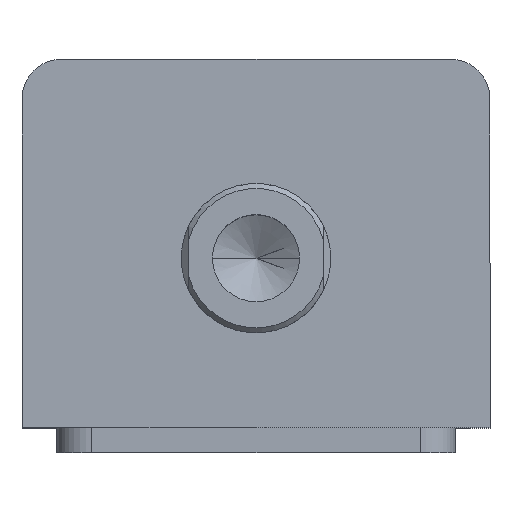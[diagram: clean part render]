
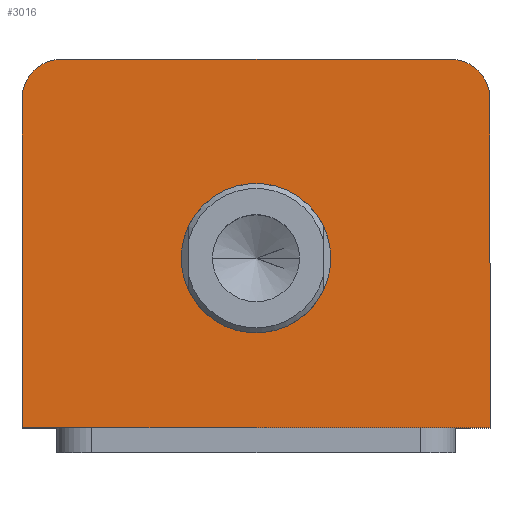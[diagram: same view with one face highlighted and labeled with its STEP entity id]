
A CAD part, top view. The second image highlights one B-rep face of the part: STEP entity #3016.
In plain terms, the highlighted planar face has unit normal (0, 0, 1).
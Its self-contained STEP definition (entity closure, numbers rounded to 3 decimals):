
#121 = CIRCLE ( 'NONE', #555, 15. ) ;
#129 = LINE ( 'NONE', #1031, #132 ) ;
#132 = VECTOR ( 'NONE', #1032, 1000. ) ;
#148 = FACE_OUTER_BOUND ( 'NONE', #2003, .T. ) ;
#152 = FACE_BOUND ( 'NONE', #3001, .T. ) ;
#481 = AXIS2_PLACEMENT_3D ( 'NONE', #2339, #2337, #2336 ) ;
#489 = AXIS2_PLACEMENT_3D ( 'NONE', #2591, #2558, #2590 ) ;
#494 = AXIS2_PLACEMENT_3D ( 'NONE', #2572, #2571, #2569 ) ;
#555 = AXIS2_PLACEMENT_3D ( 'NONE', #1017, #1018, #1019 ) ;
#565 = AXIS2_PLACEMENT_3D ( 'NONE', #1194, #1200, #1201 ) ;
#786 = EDGE_CURVE ( 'NONE', #1944, #2116, #1557, .T. ) ;
#799 = EDGE_CURVE ( 'NONE', #1946, #1944, #1539, .T. ) ;
#809 = EDGE_CURVE ( 'NONE', #2116, #1937, #1527, .T. ) ;
#815 = EDGE_CURVE ( 'NONE', #2094, #1954, #1519, .T. ) ;
#823 = EDGE_CURVE ( 'NONE', #1937, #2094, #1503, .T. ) ;
#832 = EDGE_CURVE ( 'NONE', #2435, #2436, #1486, .T. ) ;
#1017 = CARTESIAN_POINT ( 'NONE',  ( 0., -3., 110. ) ) ;
#1018 = DIRECTION ( 'NONE',  ( 0., 0., 1. ) ) ;
#1019 = DIRECTION ( 'NONE',  ( 1., 0., 0. ) ) ;
#1031 = CARTESIAN_POINT ( 'NONE',  ( 47., 37., 110. ) ) ;
#1032 = DIRECTION ( 'NONE',  ( 0., 1., 0. ) ) ;
#1078 = CARTESIAN_POINT ( 'NONE',  ( 47., 29., 110. ) ) ;
#1079 = CARTESIAN_POINT ( 'NONE',  ( -47., 29., 110. ) ) ;
#1084 = CARTESIAN_POINT ( 'NONE',  ( 39., 37., 110. ) ) ;
#1092 = CARTESIAN_POINT ( 'NONE',  ( 47., -37., 110. ) ) ;
#1138 = CARTESIAN_POINT ( 'NONE',  ( -47., -37., 110. ) ) ;
#1140 = CARTESIAN_POINT ( 'NONE',  ( -39., 37., 110. ) ) ;
#1156 = CARTESIAN_POINT ( 'NONE',  ( -15., -3., 110. ) ) ;
#1157 = CARTESIAN_POINT ( 'NONE',  ( 15., -3., 110. ) ) ;
#1194 = CARTESIAN_POINT ( 'NONE',  ( 0., 0., 110. ) ) ;
#1198 = PLANE ( 'NONE',  #565 ) ;
#1200 = DIRECTION ( 'NONE',  ( 0., 0., 1. ) ) ;
#1201 = DIRECTION ( 'NONE',  ( 1., 0., 0. ) ) ;
#1449 = EDGE_CURVE ( 'NONE', #2436, #2435, #121, .T. ) ;
#1455 = EDGE_CURVE ( 'NONE', #1954, #1946, #129, .T. ) ;
#1486 = CIRCLE ( 'NONE', #494, 15. ) ;
#1500 = VECTOR ( 'NONE', #2476, 1000. ) ;
#1503 = LINE ( 'NONE', #2482, #1500 ) ;
#1516 = VECTOR ( 'NONE', #2542, 1000. ) ;
#1519 = LINE ( 'NONE', #2537, #1516 ) ;
#1527 = CIRCLE ( 'NONE', #489, 8. ) ;
#1539 = CIRCLE ( 'NONE', #481, 8. ) ;
#1554 = VECTOR ( 'NONE', #2354, 1000. ) ;
#1557 = LINE ( 'NONE', #2346, #1554 ) ;
#1937 = VERTEX_POINT ( 'NONE', #1079 ) ;
#1944 = VERTEX_POINT ( 'NONE', #1084 ) ;
#1946 = VERTEX_POINT ( 'NONE', #1078 ) ;
#1954 = VERTEX_POINT ( 'NONE', #1092 ) ;
#2003 = EDGE_LOOP ( 'NONE', ( #2138, #2139, #2140, #2141, #2142, #2143 ) ) ;
#2094 = VERTEX_POINT ( 'NONE', #1138 ) ;
#2116 = VERTEX_POINT ( 'NONE', #1140 ) ;
#2136 = ORIENTED_EDGE ( 'NONE', *, *, #832, .F. ) ;
#2137 = ORIENTED_EDGE ( 'NONE', *, *, #1449, .F. ) ;
#2138 = ORIENTED_EDGE ( 'NONE', *, *, #786, .T. ) ;
#2139 = ORIENTED_EDGE ( 'NONE', *, *, #809, .T. ) ;
#2140 = ORIENTED_EDGE ( 'NONE', *, *, #823, .T. ) ;
#2141 = ORIENTED_EDGE ( 'NONE', *, *, #815, .T. ) ;
#2142 = ORIENTED_EDGE ( 'NONE', *, *, #1455, .T. ) ;
#2143 = ORIENTED_EDGE ( 'NONE', *, *, #799, .T. ) ;
#2336 = DIRECTION ( 'NONE',  ( 1., 0., 0. ) ) ;
#2337 = DIRECTION ( 'NONE',  ( 0., 0., 1. ) ) ;
#2339 = CARTESIAN_POINT ( 'NONE',  ( 39., 29., 110. ) ) ;
#2346 = CARTESIAN_POINT ( 'NONE',  ( -47., 37., 110. ) ) ;
#2354 = DIRECTION ( 'NONE',  ( -1., 0., 0. ) ) ;
#2435 = VERTEX_POINT ( 'NONE', #1157 ) ;
#2436 = VERTEX_POINT ( 'NONE', #1156 ) ;
#2476 = DIRECTION ( 'NONE',  ( 0., -1., 0. ) ) ;
#2482 = CARTESIAN_POINT ( 'NONE',  ( -47., 37., 110. ) ) ;
#2537 = CARTESIAN_POINT ( 'NONE',  ( -47., -37., 110. ) ) ;
#2542 = DIRECTION ( 'NONE',  ( 1., 0., 0. ) ) ;
#2558 = DIRECTION ( 'NONE',  ( 0., 0., 1. ) ) ;
#2569 = DIRECTION ( 'NONE',  ( 1., 0., 0. ) ) ;
#2571 = DIRECTION ( 'NONE',  ( 0., 0., 1. ) ) ;
#2572 = CARTESIAN_POINT ( 'NONE',  ( 0., -3., 110. ) ) ;
#2590 = DIRECTION ( 'NONE',  ( 1., 0., 0. ) ) ;
#2591 = CARTESIAN_POINT ( 'NONE',  ( -39., 29., 110. ) ) ;
#3001 = EDGE_LOOP ( 'NONE', ( #2136, #2137 ) ) ;
#3016 = ADVANCED_FACE ( 'NONE', ( #152, #148 ), #1198, .T. ) ;
